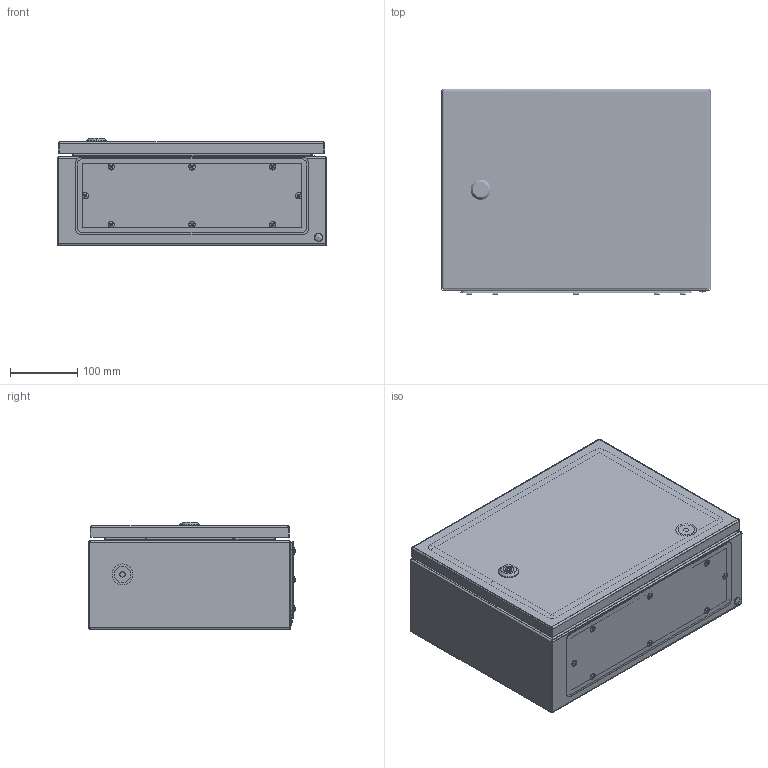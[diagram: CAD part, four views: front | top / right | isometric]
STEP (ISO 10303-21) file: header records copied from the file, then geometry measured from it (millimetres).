
FILE_DESCRIPTION (( 'STEP AP214' ), '1' );
FILE_NAME ('T-CCS 30.40.15.STEP', '2024-08-19T14:34:25', ( '' ), ( '' ), 'SwSTEP 2.0', 'SolidWorks 2019', '' );
FILE_SCHEMA (( 'AUTOMOTIVE_DESIGN' ));
Length unit declared in the file: millimetre
Products named in the file (1): T-CCS 30.40.15
Bounding box: 400 x 306.62 x 159.15 mm (x, y, z)
Volume: 1611660.1 mm3; surface area: 1599936.6 mm2
Topology: 72 solids, 73 shells, 3463 faces, 8800 edges, 5558 vertices
Faces by surface type: plane 1830, cylinder 1059, cone 284, bspline 140, torus 107, sphere 43
Entity records: 170922 total; most frequent: CARTESIAN_POINT 50101, ORIENTED_EDGE 17490, DIRECTION 16577, EDGE_CURVE 8745, AXIS2_PLACEMENT_3D 5649, VERTEX_POINT 5556, VECTOR 5279, LINE 5279
